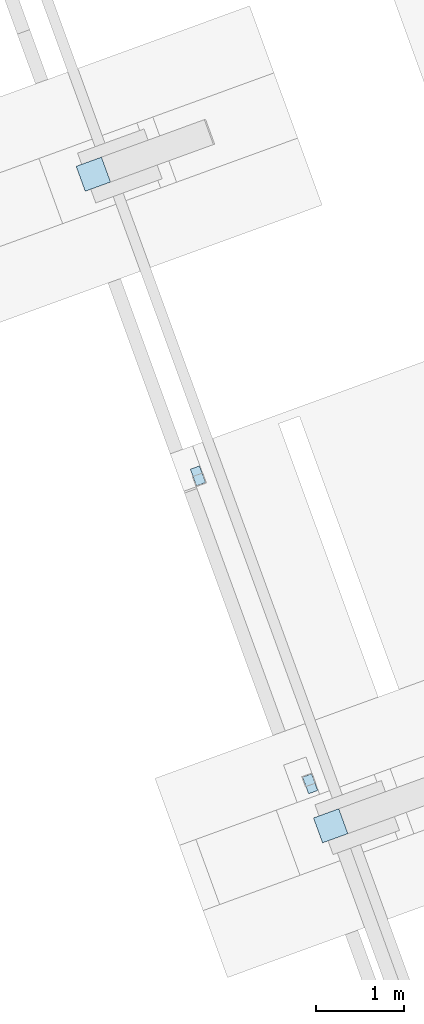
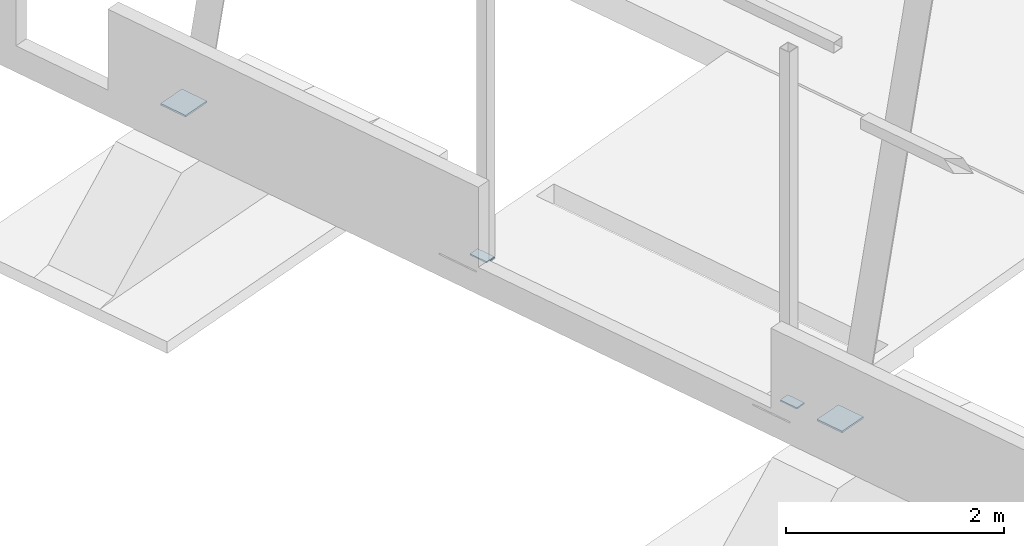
# One storey, part 18 of 20: 4 plates, 4 elements without a shape of their own.
"""IFC4 building model written with IfcOpenShell, lengths in millimetres."""

from ifc_helpers import new_model, si_unit, direction, frame, origin_with_axes, place, context, subcontext, project, spatial, polygons, material, element, aggregate, save


model = new_model("IFC4")

# Units and contexts
model_context = context("Model", 3, precision=0.2, world=frame((203566.813, 116264.779, 0.0), z_axis=(0.0, 0.0, 1.0), x_axis=(1.0, 0.0, 0.0)), true_north=direction((-0.9396138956, -0.3422363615)))
body_context = subcontext(model_context, "Body", "Model", "MODEL_VIEW")
ifc_project = project(units=[si_unit("LENGTHUNIT", "METRE", prefix="MILLI"), si_unit("AREAUNIT", "SQUARE_METRE"), si_unit("VOLUMEUNIT", "CUBIC_METRE"), si_unit("MASSUNIT", "GRAM", prefix="KILO"), si_unit("TIMEUNIT", "SECOND"), si_unit("PLANEANGLEUNIT", "RADIAN"), si_unit("SOLIDANGLEUNIT", "STERADIAN"), si_unit("THERMODYNAMICTEMPERATUREUNIT", "DEGREE_CELSIUS"), si_unit("LUMINOUSINTENSITYUNIT", "LUMEN")], contexts=[model_context])

# Site, building, storey
site_placement = place(None, origin_with_axes())
site = spatial("IfcSite", under=ifc_project, at=site_placement, Name="Nobelprojektet", CompositionType="ELEMENT")
building_placement = place(site_placement, origin_with_axes())
building = spatial("IfcBuilding", under=site, at=building_placement, Name="Hall B", CompositionType="ELEMENT")
storey_placement = place(building_placement, frame((0.0, 0.0, 1000.0), z_axis=(0.0, 0.0, 1.0), x_axis=(1.0, 0.0, 0.0)))
storey = spatial("IfcBuildingStorey", under=building, at=storey_placement, Name="Plan_1", CompositionType="ELEMENT", Elevation=1000.0)

# Assembly, plate
assembly_1_placement = place(storey_placement, frame((132344.82185, 162961.06911, 132137.50354), z_axis=(0.0, 0.0, 1.0), x_axis=(-0.3422371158, 0.9396136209, 1.3e-09)))
assembly_1 = element("IfcElementAssembly", 1, at=assembly_1_placement, inside=storey, Name="PRIMÄR_BALK", PredefinedType="NOTDEFINED")
ifc_material = material(Name="S355J2", Category="STEEL")
plate_1_placement = place(assembly_1_placement, frame((200.0, 0.0, 0.0), z_axis=(-1.0, 0.0, 0.0), x_axis=(0.0, 0.0, 1.0)))
plate_1 = element("IfcPlate", 2, at=plate_1_placement, material=ifc_material, Name="BEFINTLIG", PredefinedType="NOTDEFINED", context=body_context, shape_type="Tessellation", body=[
    polygons([(-7.5, -55.0, 200.0), (-7.5, 55.0, 200.0), (-7.5, 55.0, 0.0), (-7.5, -55.0, 0.0), (7.5, 55.0, 200.0), (7.5, 55.0, 0.0), (7.5, -55.0, 200.0), (7.5, -55.0, 0.0)], [[[1, 2, 3, 4]], [[2, 5, 6, 3]], [[5, 7, 8, 6]], [[7, 1, 4, 8]], [[6, 8, 4, 3]], [[7, 5, 2, 1]]], closed=True),
])
aggregate(assembly_1, [plate_1])

assembly_2_placement = place(storey_placement, frame((133614.52183, 159475.10268, 132172.50354), z_axis=(0.0, 0.0, 1.0), x_axis=(-0.3422371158, 0.9396136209, 1.3e-09)))
assembly_2 = element("IfcElementAssembly", 3, at=assembly_2_placement, inside=storey, Name="BEFINTLIG", PredefinedType="NOTDEFINED")
plate_2_placement = place(assembly_2_placement, frame((200.0, 0.0, 0.0), z_axis=(-1.0, 0.0, 0.0), x_axis=(0.0, 0.0, 1.0)))
plate_2 = element("IfcPlate", 4, at=plate_2_placement, material=ifc_material, Name="BEFINTLIG", PredefinedType="NOTDEFINED", context=body_context, shape_type="Tessellation", body=[
    polygons([(-7.5, -55.0, 200.0), (-7.5, 55.0, 200.0), (-7.5, 55.0, 0.0), (-7.5, -55.0, 0.0), (7.5, 55.0, 200.0), (7.5, 55.0, 0.0), (7.5, -55.0, 200.0), (7.5, -55.0, 0.0)], [[[1, 2, 3, 4]], [[2, 5, 6, 3]], [[5, 7, 8, 6]], [[7, 1, 4, 8]], [[6, 8, 4, 3]], [[7, 5, 2, 1]]], closed=True),
])
aggregate(assembly_2, [plate_2])

assembly_3_placement = place(storey_placement, frame((133669.79067, 159041.75829, 132189.99959), z_axis=(0.0, 0.0, -1.0), x_axis=(0.9396136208, 0.3422371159, 0.0)))
assembly_3 = element("IfcElementAssembly", 5, at=assembly_3_placement, inside=storey, Name="BEF. STOMME", PredefinedType="NOTDEFINED")
plate_3_placement = place(assembly_3_placement, frame((304.32129, 0.0, 0.0), z_axis=(-1.0, 0.0, 0.0), x_axis=(0.0, 0.0, 1.0)))
plate_3 = element("IfcPlate", 6, at=plate_3_placement, material=ifc_material, Name="BEF. STOMME", PredefinedType="NOTDEFINED", context=body_context, shape_type="Tessellation", body=[
    polygons([(-10.0, -150.0, 304.32129), (-10.0, 150.0, 304.32129), (-10.0, 150.0, 0.0), (-10.0, -150.0, 0.0), (10.0, 150.0, 304.32129), (10.0, 150.0, 0.0), (10.0, -150.0, 304.32129), (10.0, -150.0, 0.0)], [[[1, 2, 3, 4]], [[2, 5, 6, 3]], [[5, 7, 8, 6]], [[7, 1, 4, 8]], [[6, 8, 4, 3]], [[7, 5, 2, 1]]], closed=True),
])
aggregate(assembly_3, [plate_3])

assembly_4_placement = place(storey_placement, frame((130983.22931, 166417.72521, 132189.99959), z_axis=(0.0, 0.0, -1.0), x_axis=(0.9396136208, 0.3422371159, 0.0)))
assembly_4 = element("IfcElementAssembly", 7, at=assembly_4_placement, inside=storey, Name="BEF. STOMME", PredefinedType="NOTDEFINED")
plate_4_placement = place(assembly_4_placement, frame((304.32129, 0.0, 0.0), z_axis=(-1.0, 0.0, 0.0), x_axis=(0.0, 0.0, 1.0)))
plate_4 = element("IfcPlate", 8, at=plate_4_placement, material=ifc_material, Name="BEF. STOMME", PredefinedType="NOTDEFINED", context=body_context, shape_type="Tessellation", body=[
    polygons([(-10.0, -150.0, 304.32129), (-10.0, 150.0, 304.32129), (-10.0, 150.0, 0.0), (-10.0, -150.0, 0.0), (10.0, 150.0, 304.32129), (10.0, 150.0, 0.0), (10.0, -150.0, 304.32129), (10.0, -150.0, 0.0)], [[[1, 2, 3, 4]], [[2, 5, 6, 3]], [[5, 7, 8, 6]], [[7, 1, 4, 8]], [[6, 8, 4, 3]], [[7, 5, 2, 1]]], closed=True),
])
aggregate(assembly_4, [plate_4])

save(model, "model.ifc")
